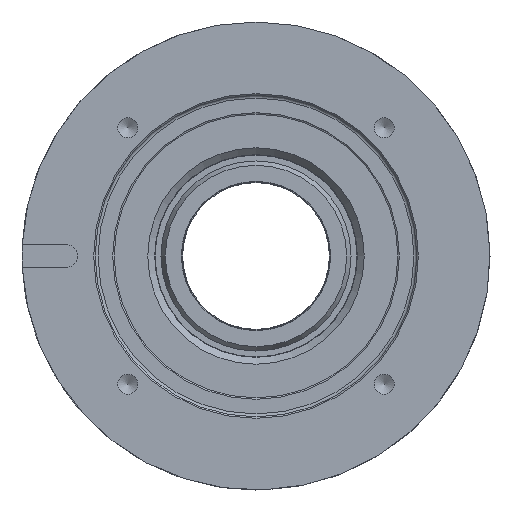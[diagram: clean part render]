
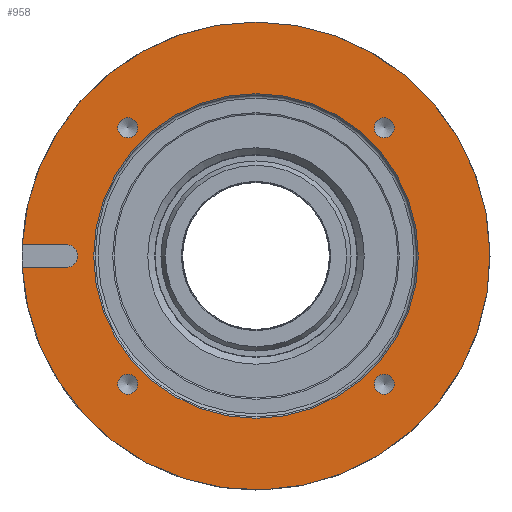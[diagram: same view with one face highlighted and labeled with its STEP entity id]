
A CAD part, left-side view. The second image highlights one B-rep face of the part: STEP entity #958.
In plain terms, the highlighted planar face has unit normal (-1, 0, 0).
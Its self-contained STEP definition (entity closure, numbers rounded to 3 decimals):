
#19 = DIRECTION ( 'NONE',  ( 0., 0., -1. ) ) ;
#34 = DIRECTION ( 'NONE',  ( 1., 0., 0. ) ) ;
#52 = FACE_BOUND ( 'NONE', #899, .T. ) ;
#76 = CARTESIAN_POINT ( 'NONE',  ( 0., 79.9, -4. ) ) ;
#93 = CARTESIAN_POINT ( 'NONE',  ( 0., -43.841, 47.241 ) ) ;
#96 = CARTESIAN_POINT ( 'NONE',  ( 0., 43.841, 43.841 ) ) ;
#113 = CARTESIAN_POINT ( 'NONE',  ( 0., 43.841, 47.241 ) ) ;
#182 = ORIENTED_EDGE ( 'NONE', *, *, #1263, .F. ) ;
#198 = ORIENTED_EDGE ( 'NONE', *, *, #1039, .F. ) ;
#211 = CIRCLE ( 'NONE', #506, 3.4 ) ;
#214 = FACE_BOUND ( 'NONE', #787, .T. ) ;
#233 = DIRECTION ( 'NONE',  ( -1., 0., 0. ) ) ;
#240 = VERTEX_POINT ( 'NONE', #922 ) ;
#242 = CARTESIAN_POINT ( 'NONE',  ( 0., -43.841, -43.841 ) ) ;
#258 = CIRCLE ( 'NONE', #677, 4. ) ;
#296 = VERTEX_POINT ( 'NONE', #1381 ) ;
#339 = VERTEX_POINT ( 'NONE', #93 ) ;
#348 = EDGE_LOOP ( 'NONE', ( #953 ) ) ;
#350 = ORIENTED_EDGE ( 'NONE', *, *, #1452, .F. ) ;
#370 = CARTESIAN_POINT ( 'NONE',  ( 0., 0., 0. ) ) ;
#374 = EDGE_CURVE ( 'NONE', #339, #339, #1272, .T. ) ;
#395 = FACE_BOUND ( 'NONE', #348, .T. ) ;
#399 = CARTESIAN_POINT ( 'NONE',  ( 0., 0., 55.5 ) ) ;
#412 = DIRECTION ( 'NONE',  ( 0., 0., 1. ) ) ;
#417 = LINE ( 'NONE', #1513, #1127 ) ;
#472 = AXIS2_PLACEMENT_3D ( 'NONE', #96, #1404, #1824 ) ;
#474 = VECTOR ( 'NONE', #1187, 1000. ) ;
#505 = DIRECTION ( 'NONE',  ( -1., 0., 0. ) ) ;
#506 = AXIS2_PLACEMENT_3D ( 'NONE', #242, #549, #1112 ) ;
#546 = EDGE_CURVE ( 'NONE', #794, #794, #756, .T. ) ;
#548 = DIRECTION ( 'NONE',  ( 0., 0., 1. ) ) ;
#549 = DIRECTION ( 'NONE',  ( -1., 0., 0. ) ) ;
#562 = ORIENTED_EDGE ( 'NONE', *, *, #1569, .F. ) ;
#656 = CARTESIAN_POINT ( 'NONE',  ( 0., 43.841, -40.441 ) ) ;
#668 = CIRCLE ( 'NONE', #472, 3.4 ) ;
#675 = DIRECTION ( 'NONE',  ( -1., 0., 0. ) ) ;
#677 = AXIS2_PLACEMENT_3D ( 'NONE', #1224, #505, #1626 ) ;
#716 = CIRCLE ( 'NONE', #1472, 3.4 ) ;
#727 = ORIENTED_EDGE ( 'NONE', *, *, #546, .F. ) ;
#746 = AXIS2_PLACEMENT_3D ( 'NONE', #1001, #1137, #412 ) ;
#747 = ORIENTED_EDGE ( 'NONE', *, *, #374, .F. ) ;
#756 = CIRCLE ( 'NONE', #1849, 55.5 ) ;
#787 = EDGE_LOOP ( 'NONE', ( #562 ) ) ;
#794 = VERTEX_POINT ( 'NONE', #399 ) ;
#835 = CARTESIAN_POINT ( 'NONE',  ( 0., 65., -4. ) ) ;
#899 = EDGE_LOOP ( 'NONE', ( #1526 ) ) ;
#918 = EDGE_LOOP ( 'NONE', ( #1082, #350, #198, #182 ) ) ;
#922 = CARTESIAN_POINT ( 'NONE',  ( 0., 79.9, 4. ) ) ;
#935 = DIRECTION ( 'NONE',  ( 0., 0., 1. ) ) ;
#953 = ORIENTED_EDGE ( 'NONE', *, *, #1489, .F. ) ;
#958 = ADVANCED_FACE ( 'NONE', ( #52, #395, #1058, #214, #1330, #1804 ), #1439, .F. ) ;
#960 = VERTEX_POINT ( 'NONE', #113 ) ;
#1001 = CARTESIAN_POINT ( 'NONE',  ( 0., 0., 0. ) ) ;
#1039 = EDGE_CURVE ( 'NONE', #1725, #1424, #258, .T. ) ;
#1058 = FACE_BOUND ( 'NONE', #1702, .T. ) ;
#1065 = DIRECTION ( 'NONE',  ( 0., 1., 0. ) ) ;
#1082 = ORIENTED_EDGE ( 'NONE', *, *, #1657, .T. ) ;
#1112 = DIRECTION ( 'NONE',  ( 0., 0., 1. ) ) ;
#1127 = VECTOR ( 'NONE', #1065, 1000. ) ;
#1137 = DIRECTION ( 'NONE',  ( -1., 0., 0. ) ) ;
#1187 = DIRECTION ( 'NONE',  ( 0., -1., 0. ) ) ;
#1222 = CARTESIAN_POINT ( 'NONE',  ( 0., 65., 4. ) ) ;
#1224 = CARTESIAN_POINT ( 'NONE',  ( 0., 65., 0. ) ) ;
#1263 = EDGE_CURVE ( 'NONE', #1817, #1725, #1328, .T. ) ;
#1272 = CIRCLE ( 'NONE', #1709, 3.4 ) ;
#1284 = CIRCLE ( 'NONE', #746, 80. ) ;
#1294 = CARTESIAN_POINT ( 'NONE',  ( 0., -43.841, 43.841 ) ) ;
#1321 = EDGE_LOOP ( 'NONE', ( #727 ) ) ;
#1324 = VERTEX_POINT ( 'NONE', #656 ) ;
#1328 = LINE ( 'NONE', #1615, #474 ) ;
#1330 = FACE_BOUND ( 'NONE', #1321, .T. ) ;
#1381 = CARTESIAN_POINT ( 'NONE',  ( 0., -43.841, -40.441 ) ) ;
#1404 = DIRECTION ( 'NONE',  ( -1., 0., 0. ) ) ;
#1413 = DIRECTION ( 'NONE',  ( 0., 0., 1. ) ) ;
#1424 = VERTEX_POINT ( 'NONE', #1222 ) ;
#1439 = PLANE ( 'NONE',  #1745 ) ;
#1452 = EDGE_CURVE ( 'NONE', #1424, #240, #417, .T. ) ;
#1472 = AXIS2_PLACEMENT_3D ( 'NONE', #1660, #1806, #935 ) ;
#1489 = EDGE_CURVE ( 'NONE', #296, #296, #211, .T. ) ;
#1513 = CARTESIAN_POINT ( 'NONE',  ( 0., 79.9, 4. ) ) ;
#1526 = ORIENTED_EDGE ( 'NONE', *, *, #1832, .F. ) ;
#1569 = EDGE_CURVE ( 'NONE', #960, #960, #668, .T. ) ;
#1615 = CARTESIAN_POINT ( 'NONE',  ( 0., 79.9, -4. ) ) ;
#1626 = DIRECTION ( 'NONE',  ( 0., 0., 1. ) ) ;
#1657 = EDGE_CURVE ( 'NONE', #1817, #240, #1284, .T. ) ;
#1660 = CARTESIAN_POINT ( 'NONE',  ( 0., 43.841, -43.841 ) ) ;
#1702 = EDGE_LOOP ( 'NONE', ( #747 ) ) ;
#1709 = AXIS2_PLACEMENT_3D ( 'NONE', #1294, #675, #548 ) ;
#1725 = VERTEX_POINT ( 'NONE', #835 ) ;
#1744 = CARTESIAN_POINT ( 'NONE',  ( 0., 0., 0. ) ) ;
#1745 = AXIS2_PLACEMENT_3D ( 'NONE', #1744, #34, #19 ) ;
#1804 = FACE_OUTER_BOUND ( 'NONE', #918, .T. ) ;
#1806 = DIRECTION ( 'NONE',  ( -1., 0., 0. ) ) ;
#1817 = VERTEX_POINT ( 'NONE', #76 ) ;
#1824 = DIRECTION ( 'NONE',  ( 0., 0., 1. ) ) ;
#1832 = EDGE_CURVE ( 'NONE', #1324, #1324, #716, .T. ) ;
#1849 = AXIS2_PLACEMENT_3D ( 'NONE', #370, #233, #1413 ) ;
